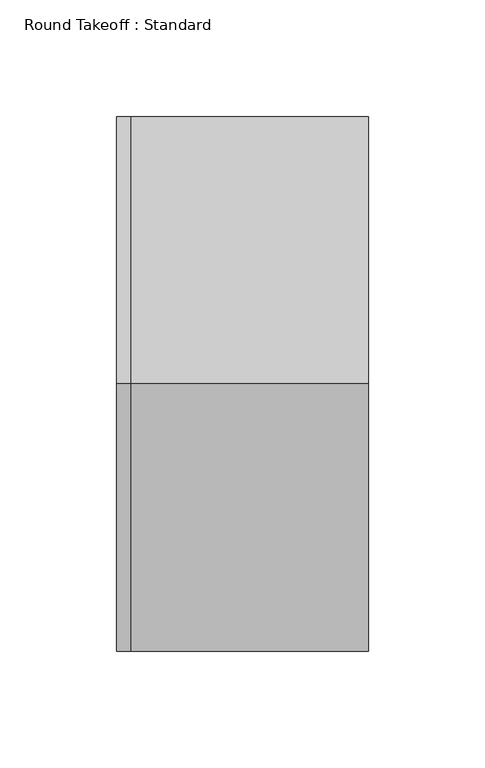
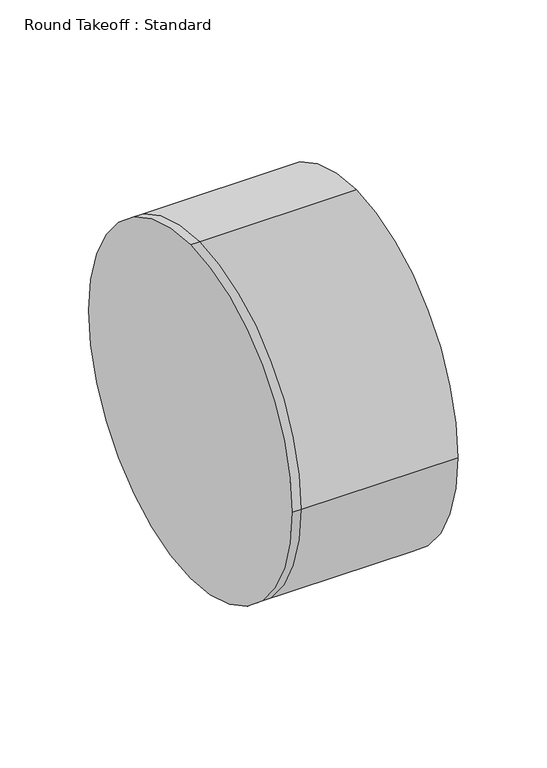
"""IFC4 building model written with IfcOpenShell, lengths in millimetres: duct fitting geometry, Round Takeoff : Standard."""

from ifc_helpers import new_model, si_unit, frame, origin, place, context, project, spatial, circle_curve, source, transform, mapped, element, save
from ifc_brep_helpers import plane_surface, cylinder_surface, advanced_brep


def round_takeoff_standard_71c39a53(model_context):
    return source(origin(), model_context, "Body", "AdvancedBrep", [
        advanced_brep(
        [(101.6, 0.0, 114.3), (101.6, -114.3, 0.0), (101.6, 0.0, -114.3), (101.6, 114.3, 0.0), (0.0, 0.0, 114.3), (0.0, -114.3, 0.0), (0.0, 0.0, -114.3), (0.0, 114.3, 0.0), (-6.096, 0.0, 114.3), (-6.096, 114.3, 0.0), (-6.096, 0.0, -114.3), (-6.096, -114.3, 0.0)],
        [
            (0, 1, circle_curve(frame((101.6, 0.0, 0.0), z_axis=(1.0, 0.0, 0.0), x_axis=(0.0, -1.0, 0.0)), 114.3)),
            (1, 2, circle_curve(frame((101.6, 0.0, 0.0), z_axis=(1.0, 0.0, 0.0), x_axis=(0.0, -1.0, 0.0)), 114.3)),
            (2, 3, circle_curve(frame((101.6, 0.0, 0.0), z_axis=(1.0, 0.0, 0.0), x_axis=(0.0, -1.0, 0.0)), 114.3)),
            (3, 0, circle_curve(frame((101.6, 0.0, 0.0), z_axis=(1.0, 0.0, 0.0), x_axis=(0.0, -1.0, 0.0)), 114.3)),
            (0, 4),
            (4, 5, circle_curve(frame((0.0, 0.0, 0.0), z_axis=(1.0, 0.0, 0.0), x_axis=(0.0, -1.0, 0.0)), 114.3)),
            (5, 1),
            (5, 6, circle_curve(frame((0.0, 0.0, 0.0), z_axis=(1.0, 0.0, 0.0), x_axis=(0.0, -1.0, 0.0)), 114.3)),
            (6, 2),
            (6, 7, circle_curve(frame((0.0, 0.0, 0.0), z_axis=(1.0, 0.0, 0.0), x_axis=(0.0, -1.0, 0.0)), 114.3)),
            (7, 3),
            (7, 4, circle_curve(frame((0.0, 0.0, 0.0), z_axis=(1.0, 0.0, 0.0), x_axis=(0.0, -1.0, 0.0)), 114.3)),
            (8, 9, circle_curve(frame((-6.096, 0.0, 0.0), z_axis=(-1.0, 0.0, 0.0), x_axis=(0.0, -1.0, 0.0)), 114.3)),
            (9, 10, circle_curve(frame((-6.096, 0.0, 0.0), z_axis=(-1.0, 0.0, 0.0), x_axis=(0.0, -1.0, 0.0)), 114.3)),
            (10, 11, circle_curve(frame((-6.096, 0.0, 0.0), z_axis=(-1.0, 0.0, 0.0), x_axis=(0.0, -1.0, 0.0)), 114.3)),
            (11, 8, circle_curve(frame((-6.096, 0.0, 0.0), z_axis=(-1.0, 0.0, 0.0), x_axis=(0.0, -1.0, 0.0)), 114.3)),
            (11, 5),
            (4, 8),
            (10, 6),
            (9, 7),
        ],
        [
            plane_surface(frame((101.6, 0.0, 0.0), z_axis=(1.0, 0.0, 0.0), x_axis=(0.0, 0.0, 1.0))),
            cylinder_surface(frame((0.0, 0.0, 0.0), z_axis=(-1.0, 0.0, 0.0), x_axis=(0.0, -1.0, 0.0)), 114.3),
            plane_surface(frame((-6.096, 0.0, 0.0), z_axis=(-1.0, 0.0, 0.0), x_axis=(0.0, 0.0, 1.0))),
            cylinder_surface(frame((-6.096, 0.0, 0.0), z_axis=(-1.0, 0.0, 0.0), x_axis=(0.0, -1.0, 0.0)), 114.3),
        ],
        [
            (0, [[1, 2, 3, 4]]),
            (1, [[5, 6, 7, -1]]),
            (1, [[-7, 8, 9, -2]]),
            (1, [[-9, 10, 11, -3]]),
            (1, [[-11, 12, -5, -4]]),
            (2, [[13, 14, 15, 16]]),
            (3, [[17, -6, 18, -16]]),
            (3, [[19, -8, -17, -15]]),
            (3, [[20, -10, -19, -14]]),
            (3, [[-18, -12, -20, -13]]),
        ],
    ),
    ])


if __name__ == "__main__":
    model = new_model("IFC4")
    model_context = context("Model", 3, world=origin())
    ifc_project = project(units=[si_unit("LENGTHUNIT", "METRE", prefix="MILLI")], contexts=[model_context])
    site = spatial("IfcSite", under=ifc_project)
    building = spatial("IfcBuilding", under=site)
    placement = place(None, origin())
    round_takeoff_standard_shape = round_takeoff_standard_71c39a53(model_context)
    element("IfcDuctFitting", 1, ObjectType="Round Takeoff : Standard", at=placement, inside=building, context=model_context, shape_type="MappedRepresentation", body=[
        mapped(round_takeoff_standard_shape, transform((0.0, 0.0, 0.0), x_axis=(1.0, 0.0, 0.0), y_axis=(0.0, 1.0, 0.0), z_axis=(0.0, 0.0, 1.0))),
    ])
    save(model, "model.ifc")
